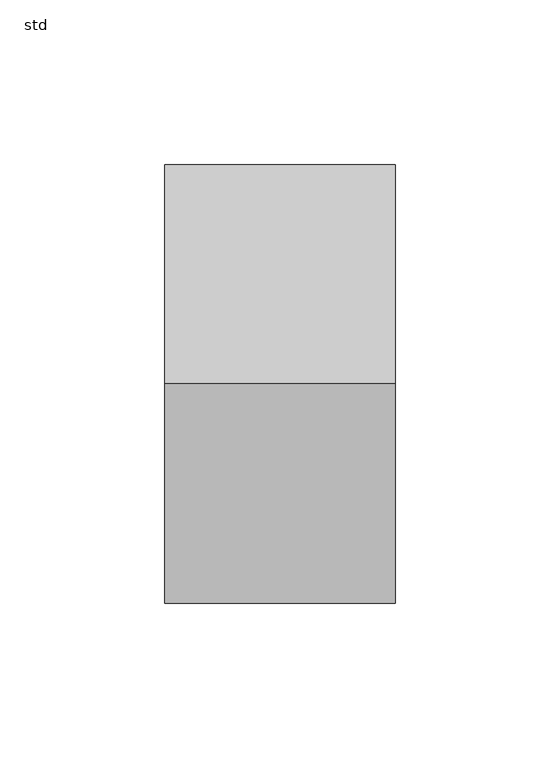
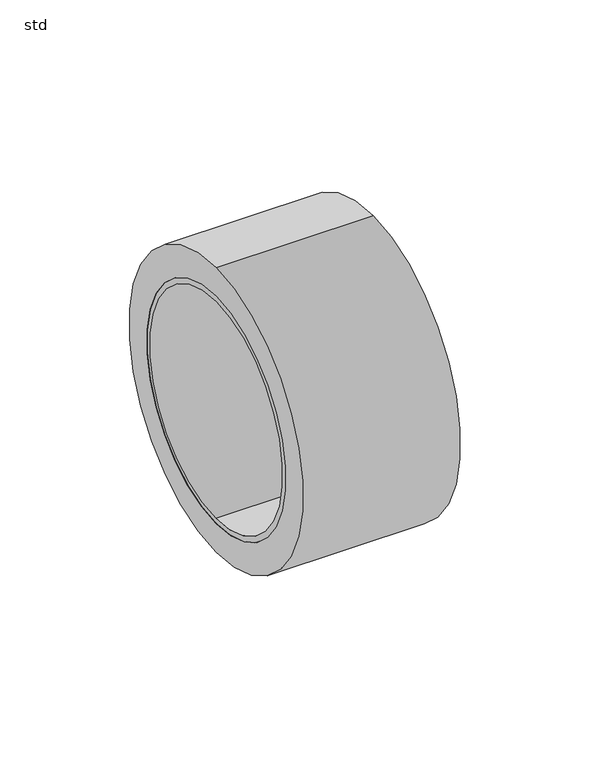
"""IFC4 building model written with IfcOpenShell, lengths in millimetres: pipe fitting geometry, PIF_ST_UN_GM-X compound pipe multi-optimiser (transition)_ACO : std."""

from ifc_helpers import new_model, si_unit, point, frame, origin, origin_2d, place, context, project, spatial, polyline, circle_curve, trimmed, segment, composite_curve, outline, extrude, source, transform, mapped, element, save
from ifc_brep_helpers import plane_surface, cylinder_surface, revolved_surface, advanced_brep


def std_98267aa1(model_context):
    return source(origin(), model_context, "Body", "SolidModel", [
        extrude(outline(composite_curve([segment(trimmed(circle_curve(origin_2d(), 67.0), [point((0.0, -67.0))], [point((0.0, 67.0))], False, "CARTESIAN"), True, "CONTINUOUS"), segment(trimmed(circle_curve(origin_2d(), 67.0), [point((0.0, 67.0))], [point((0.0, -67.0))], False, "CARTESIAN"), True, "CONTINUOUS")], self_intersect=False), holes=[composite_curve([segment(trimmed(circle_curve(origin_2d(), 53.5), [point((0.0, 53.5))], [point((0.0, -53.5))], True, "CARTESIAN"), True, "CONTINUOUS"), segment(trimmed(circle_curve(origin_2d(), 53.5), [point((0.0, -53.5))], [point((0.0, 53.5))], True, "CARTESIAN"), True, "CONTINUOUS")], self_intersect=False)]), frame((0.0, 0.0, 0.0), z_axis=(1.0, 0.0, 0.0), x_axis=(0.0, 1.0, 0.0)), (0.0, 0.0, 1.0), 70.0),
        advanced_brep(
        [(0.0, 0.0, -53.5), (0.0, 0.0, 53.5), (0.0, 0.0, 51.0), (0.0, 0.0, -51.0), (70.0, 0.0, -53.5), (70.0, 0.0, 53.5), (70.0, 0.0, -51.0), (70.0, 0.0, 51.0), (33.0, 0.0, -53.5), (33.0, 0.0, 53.5), (61.7, 0.0, 53.5), (61.7, 0.0, -53.5), (33.0, 0.0, -59.0), (33.0, 0.0, 59.0), (61.7, 0.0, -59.0), (61.7, 0.0, 59.0)],
        [
            (0, 1, circle_curve(frame((0.0, 0.0, 0.0), z_axis=(-1.0, 0.0, 0.0), x_axis=(0.0, 0.0, 1.0)), 53.5)),
            (1, 0, circle_curve(frame((0.0, 0.0, 0.0), z_axis=(-1.0, 0.0, 0.0), x_axis=(0.0, 0.0, 1.0)), 53.5)),
            (2, 3, circle_curve(frame((0.0, 0.0, 0.0), z_axis=(1.0, 0.0, 0.0), x_axis=(0.0, 0.0, 1.0)), 51.0)),
            (3, 2, circle_curve(frame((0.0, 0.0, 0.0), z_axis=(1.0, 0.0, 0.0), x_axis=(0.0, 0.0, 1.0)), 51.0)),
            (4, 5, circle_curve(frame((70.0, 0.0, 0.0), z_axis=(1.0, 0.0, 0.0), x_axis=(0.0, 0.0, 1.0)), 53.5)),
            (5, 4, circle_curve(frame((70.0, 0.0, 0.0), z_axis=(1.0, 0.0, 0.0), x_axis=(0.0, 0.0, 1.0)), 53.5)),
            (6, 7, circle_curve(frame((70.0, 0.0, 0.0), z_axis=(-1.0, 0.0, 0.0), x_axis=(0.0, 0.0, 1.0)), 51.0)),
            (7, 6, circle_curve(frame((70.0, 0.0, 0.0), z_axis=(-1.0, 0.0, 0.0), x_axis=(0.0, 0.0, 1.0)), 51.0)),
            (0, 8),
            (8, 9, circle_curve(frame((33.0, 0.0, 0.0), z_axis=(-1.0, 0.0, 0.0), x_axis=(0.0, 0.0, 1.0)), 53.5)),
            (9, 1),
            (5, 10),
            (10, 11, circle_curve(frame((61.7, 0.0, 0.0), z_axis=(1.0, 0.0, 0.0), x_axis=(0.0, 0.0, 1.0)), 53.5)),
            (11, 4),
            (9, 8, circle_curve(frame((33.0, 0.0, 0.0), z_axis=(-1.0, 0.0, 0.0), x_axis=(0.0, 0.0, 1.0)), 53.5)),
            (11, 10, circle_curve(frame((61.7, 0.0, 0.0), z_axis=(1.0, 0.0, 0.0), x_axis=(0.0, 0.0, 1.0)), 53.5)),
            (2, 7),
            (6, 3),
            (12, 13, circle_curve(frame((33.0, 0.0, 0.0), z_axis=(-1.0, 0.0, 0.0), x_axis=(0.0, 0.0, 1.0)), 59.0)),
            (13, 12, circle_curve(frame((33.0, 0.0, 0.0), z_axis=(-1.0, 0.0, 0.0), x_axis=(0.0, 0.0, 1.0)), 59.0)),
            (14, 15, circle_curve(frame((61.7, 0.0, 0.0), z_axis=(1.0, 0.0, 0.0), x_axis=(0.0, 0.0, 1.0)), 59.0)),
            (15, 14, circle_curve(frame((61.7, 0.0, 0.0), z_axis=(1.0, 0.0, 0.0), x_axis=(0.0, 0.0, 1.0)), 59.0)),
            (12, 14),
            (15, 13),
        ],
        [
            plane_surface(frame((0.0, 0.0, 53.5), z_axis=(-1.0, 0.0, 0.0), x_axis=(0.0, 1.0, 0.0))),
            plane_surface(frame((70.0, 0.0, 53.5), z_axis=(1.0, 0.0, 0.0), x_axis=(0.0, -1.0, 0.0))),
            cylinder_surface(frame((70.0, 0.0, 0.0), z_axis=(-1.0, 0.0, 0.0), x_axis=(0.0, 0.0, 1.0)), 53.5),
            revolved_surface(polyline([(0.0, 0.0, 51.0), (70.0, 0.0, 51.0)]), (70.0, 0.0, 0.0), (-1.0, 0.0, 0.0)),
            plane_surface(frame((33.0, 0.0, 59.0), z_axis=(-1.0, 0.0, 0.0), x_axis=(0.0, 1.0, 0.0))),
            plane_surface(frame((61.7, 0.0, 59.0), z_axis=(1.0, 0.0, 0.0), x_axis=(0.0, -1.0, 0.0))),
            cylinder_surface(frame((61.7, 0.0, 0.0), z_axis=(-1.0, 0.0, 0.0), x_axis=(0.0, 0.0, 1.0)), 59.0),
        ],
        [
            (0, [[1, 2], [3, 4]]),
            (1, [[5, 6], [7, 8]]),
            (2, [[-1, 9, 10, 11]]),
            (2, [[-6, 12, 13, 14]]),
            (2, [[-2, -11, 15, -9]]),
            (2, [[-5, -14, 16, -12]]),
            (3, [[17, -7, 18, -3]]),
            (3, [[-17, -4, -18, -8]]),
            (4, [[19, 20], [-10, -15]]),
            (5, [[21, 22], [-13, -16]]),
            (6, [[-19, 23, -22, 24]]),
            (6, [[-20, -24, -21, -23]]),
        ],
    ),
    ])


if __name__ == "__main__":
    model = new_model("IFC4")
    model_context = context("Model", 3, world=origin())
    ifc_project = project(units=[si_unit("LENGTHUNIT", "METRE", prefix="MILLI")], contexts=[model_context])
    site = spatial("IfcSite", under=ifc_project)
    building = spatial("IfcBuilding", under=site)
    placement = place(None, origin())
    std_shape = std_98267aa1(model_context)
    element("IfcPipeFitting", 1, ObjectType="PIF_ST_UN_GM-X compound pipe multi-optimiser (transition)_ACO : std", at=placement, inside=building, context=model_context, shape_type="MappedRepresentation", body=[
        mapped(std_shape, transform((0.0, 0.0, 0.0), x_axis=(1.0, 0.0, 0.0), y_axis=(0.0, 1.0, 0.0), z_axis=(0.0, 0.0, 1.0))),
    ])
    save(model, "model.ifc")
